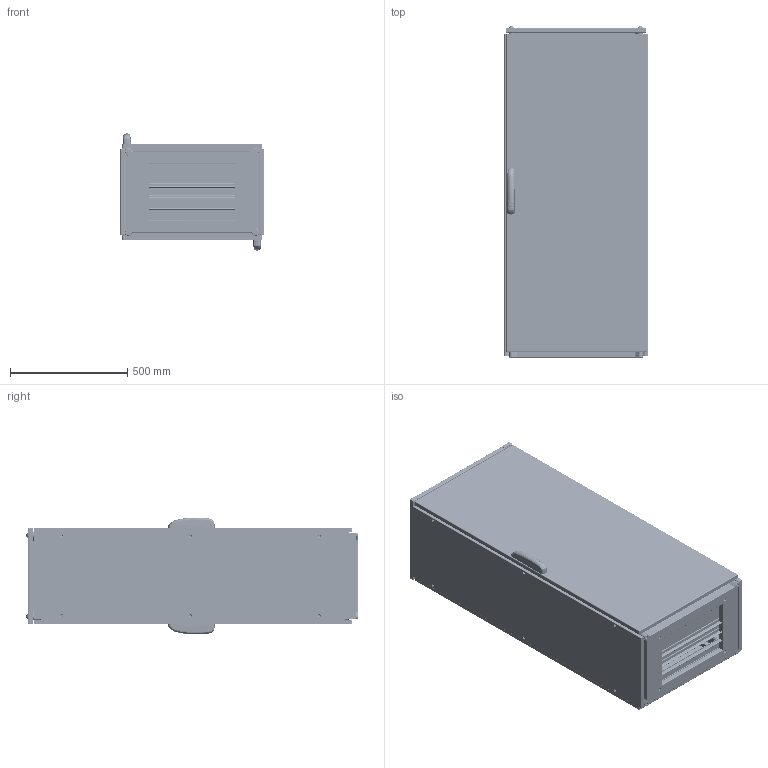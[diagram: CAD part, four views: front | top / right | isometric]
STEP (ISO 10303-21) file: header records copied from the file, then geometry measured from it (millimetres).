
FILE_DESCRIPTION (( 'STEP AP203' ), '1' );
FILE_NAME ('ENUX061404DP.STEP', '2025-05-29T10:03:03', ( '' ), ( '' ), 'SwSTEP 2.0', 'SolidWorks 2022', '' );
FILE_SCHEMA (( 'CONFIG_CONTROL_DESIGN' ));
Length unit declared in the file: millimetre
Products named in the file (13): AR_ENUX_Porta_singola_2.0_0600x1400_ANT; AR_ENUX_Fianco_0400x1400_SX; AR_ENUX_Vite_tetto; AR_ENUX_Struttura_0600x1400x0400; AR_ENUX_Tetto_0600x0400; AR_ENUX_Fianco_0400x1400_DX; AR_ENUX_Tegolino_0600x0100; AR_ENUX_nuova_maniglia_mesan; ENUX061404DP; AR_ENUX_Tegolino_0600x0050; AR_ENUX_Porta_singola_2.0_0600x1400_POST; AR_ENUX_montaggio_porta_singlola_2.0_0600x1400_POST_DX; AR_ENUX_montaggio_porta_singlola_2.0_0600x1400_ANT_DX
Assembly tree (17 placements, depth 3):
  ENUX061404DP
    AR_ENUX_Struttura_0600x1400x0400
    AR_ENUX_montaggio_porta_singlola_2.0_0600x1400_ANT_DX
      AR_ENUX_Porta_singola_2.0_0600x1400_ANT
      AR_ENUX_nuova_maniglia_mesan
    AR_ENUX_montaggio_porta_singlola_2.0_0600x1400_POST_DX
      AR_ENUX_Porta_singola_2.0_0600x1400_POST
      AR_ENUX_nuova_maniglia_mesan
    AR_ENUX_Fianco_0400x1400_SX
    AR_ENUX_Fianco_0400x1400_DX
    AR_ENUX_Tetto_0600x0400
    AR_ENUX_Vite_tetto  x4
    AR_ENUX_Tegolino_0600x0100
    AR_ENUX_Tegolino_0600x0050  x2
Bounding box: 612 x 1415.1 x 500 mm (x, y, z)
Volume: 9150348.5 mm3; surface area: 11247069.1 mm2
Topology: 15 solids, 15 shells, 7111 faces, 19938 edges, 12780 vertices
Faces by surface type: plane 3563, cylinder 2741, bspline 390, torus 225, cone 128, sphere 64
Entity records: 267871 total; most frequent: CARTESIAN_POINT 80254, ORIENTED_EDGE 38858, DIRECTION 37234, EDGE_CURVE 19429, LINE 12796, VECTOR 12796, VERTEX_POINT 12568, AXIS2_PLACEMENT_3D 12219
